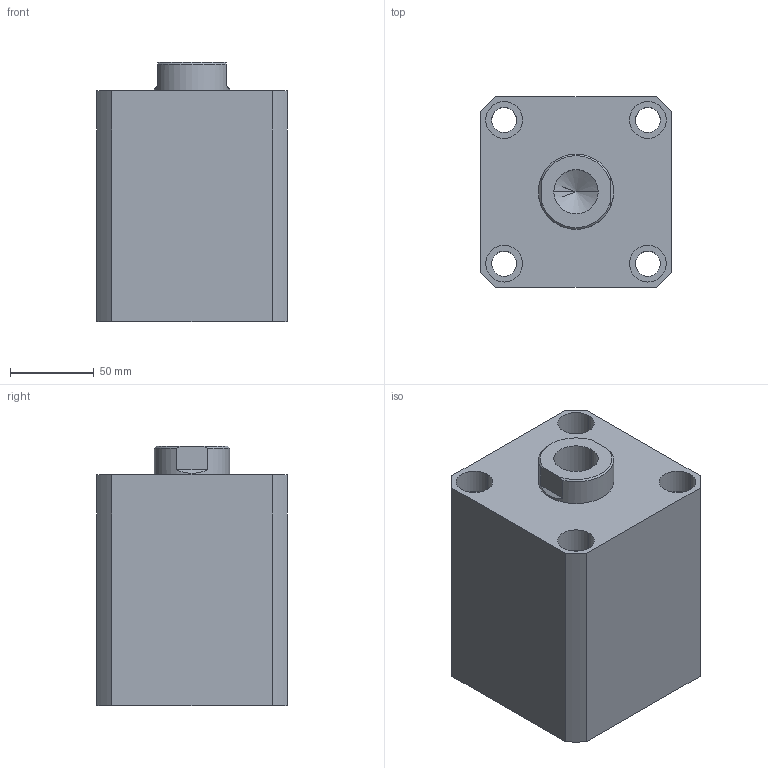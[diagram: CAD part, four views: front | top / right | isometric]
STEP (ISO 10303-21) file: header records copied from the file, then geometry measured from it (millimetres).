
FILE_DESCRIPTION (( 'STEP AP203' ), '1' );
FILE_NAME ('HTB-SDMB80-60N.STEP', '2019-10-09T06:07:54', ( '微软用户' ), ( '微软中国' ), 'SwSTEP 2.0', 'SolidWorks 2012', '' );
FILE_SCHEMA (( 'CONFIG_CONTROL_DESIGN' ));
Length unit declared in the file: millimetre
Products named in the file (3): HTB-SDMB80-60掛极; HTB-SDMB80-60N活塞杆; HTB-SDMB80-60N
Assembly tree (2 placements, depth 2):
  HTB-SDMB80-60N
    HTB-SDMB80-60掛极
    HTB-SDMB80-60N活塞杆
Bounding box: 114 x 114 x 155 mm (x, y, z)
Volume: 1446674.3 mm3; surface area: 184065.8 mm2
Topology: 2 solids, 2 shells, 137 faces, 331 edges, 217 vertices
Faces by surface type: plane 65, cylinder 46, bspline 16, torus 6, cone 4
Entity records: 5070 total; most frequent: CARTESIAN_POINT 1576, ORIENTED_EDGE 658, DIRECTION 647, EDGE_CURVE 329, AXIS2_PLACEMENT_3D 232, VERTEX_POINT 217, LINE 183, VECTOR 183
